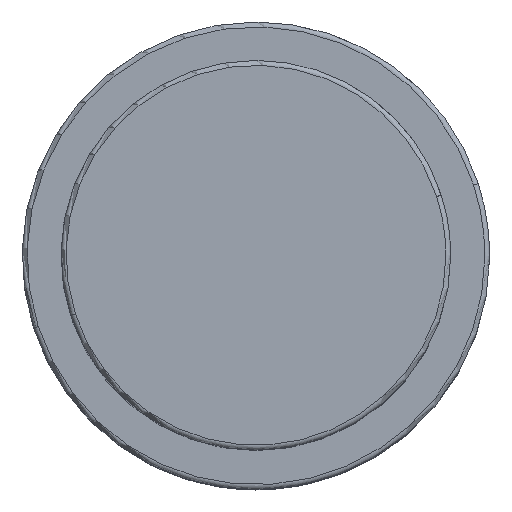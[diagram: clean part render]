
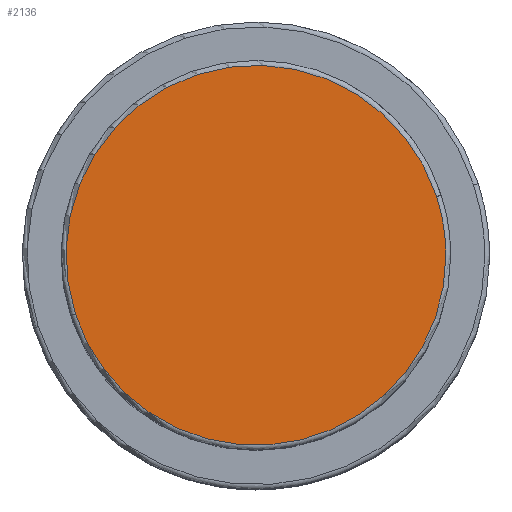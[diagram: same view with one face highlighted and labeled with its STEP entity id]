
A CAD part, top view. The second image highlights one B-rep face of the part: STEP entity #2136.
In plain terms, the highlighted planar face has unit normal (0, 0, 1).
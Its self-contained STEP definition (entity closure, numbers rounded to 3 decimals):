
#2069=CARTESIAN_POINT('',(18.546,6.026,43.5));
#2070=VERTEX_POINT('',#2069);
#2088=CARTESIAN_POINT('',(-18.546,-6.026,43.5));
#2089=VERTEX_POINT('',#2088);
#2097=CARTESIAN_POINT('',(0.0,0.0,43.5));
#2098=DIRECTION('',(0.0,0.0,1.0));
#2099=DIRECTION('',(1.0,0.0,0.0));
#2100=AXIS2_PLACEMENT_3D('',#2097,#2098,#2099);
#2101=CIRCLE('',#2100,19.5);
#2102=EDGE_CURVE('no 1999',#2070,#2089,#2101,.T.);
#2112=CARTESIAN_POINT('',(19.5,0.0,43.5));
#2113=VERTEX_POINT('',#2112);
#2114=CARTESIAN_POINT('',(0.0,0.0,43.5));
#2115=DIRECTION('',(0.0,0.0,1.0));
#2116=DIRECTION('',(1.0,0.0,0.0));
#2117=AXIS2_PLACEMENT_3D('',#2114,#2115,#2116);
#2118=CIRCLE('',#2117,19.5);
#2119=EDGE_CURVE('no 2008',#2113,#2070,#2118,.T.);
#2120=ORIENTED_EDGE('',*,*,#2119,.T.);
#2121=ORIENTED_EDGE('',*,*,#2102,.T.);
#2122=CARTESIAN_POINT('',(0.0,0.0,43.5));
#2123=DIRECTION('',(0.0,0.0,1.0));
#2124=DIRECTION('',(1.0,0.0,0.0));
#2125=AXIS2_PLACEMENT_3D('',#2122,#2123,#2124);
#2126=CIRCLE('',#2125,19.5);
#2127=EDGE_CURVE('no 2014',#2089,#2113,#2126,.T.);
#2128=ORIENTED_EDGE('',*,*,#2127,.T.);
#2129=EDGE_LOOP('',(#2120,#2121,#2128));
#2130=FACE_OUTER_BOUND('',#2129,.T.);
#2131=CARTESIAN_POINT('',(0.0,0.0,43.5));
#2132=DIRECTION('',(0.0,0.0,1.0));
#2133=DIRECTION('',(1.0,0.0,0.0));
#2134=AXIS2_PLACEMENT_3D('',#2131,#2132,#2133);
#2135=PLANE('',#2134);
#2136=ADVANCED_FACE('no 2001',(#2130),#2135,.T.);
